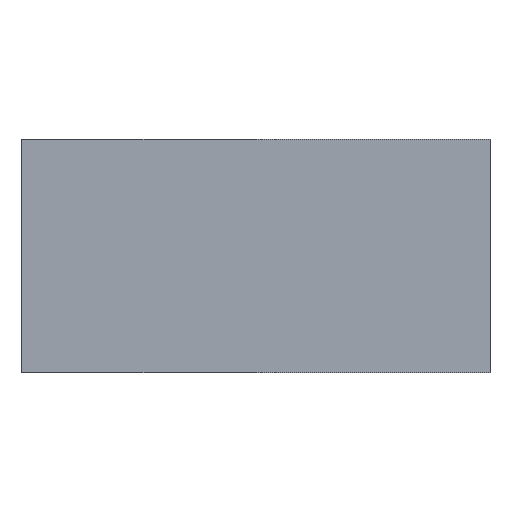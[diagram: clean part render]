
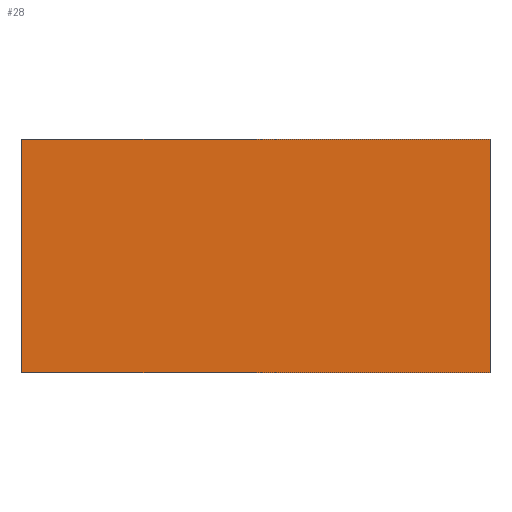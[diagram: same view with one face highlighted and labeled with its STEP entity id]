
A CAD part, front view. The second image highlights one B-rep face of the part: STEP entity #28.
In plain terms, the highlighted planar face has unit normal (0, -1, 0).
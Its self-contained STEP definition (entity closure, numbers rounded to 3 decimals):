
#28=ADVANCED_FACE('',(#34),#186,.T.);
#34=FACE_OUTER_BOUND('',#40,.T.);
#40=EDGE_LOOP('',(#58,#59,#60,#61));
#58=ORIENTED_EDGE('',*,*,#136,.F.);
#59=ORIENTED_EDGE('',*,*,#133,.F.);
#60=ORIENTED_EDGE('',*,*,#130,.F.);
#61=ORIENTED_EDGE('',*,*,#126,.F.);
#66=PCURVE('',#182,#90);
#70=PCURVE('',#183,#94);
#74=PCURVE('',#184,#98);
#78=PCURVE('',#185,#102);
#82=PCURVE('',#186,#106);
#83=PCURVE('',#186,#107);
#84=PCURVE('',#186,#108);
#85=PCURVE('',#186,#109);
#90=DEFINITIONAL_REPRESENTATION('',(#139),#313);
#94=DEFINITIONAL_REPRESENTATION('',(#147),#313);
#98=DEFINITIONAL_REPRESENTATION('',(#154),#313);
#102=DEFINITIONAL_REPRESENTATION('',(#161),#313);
#106=DEFINITIONAL_REPRESENTATION('',(#166),#313);
#107=DEFINITIONAL_REPRESENTATION('',(#167),#313);
#108=DEFINITIONAL_REPRESENTATION('',(#168),#313);
#109=DEFINITIONAL_REPRESENTATION('',(#169),#313);
#114=SURFACE_CURVE('',#138,(#66,#85),.PCURVE_S1.);
#118=SURFACE_CURVE('',#146,(#70,#84),.PCURVE_S1.);
#121=SURFACE_CURVE('',#153,(#74,#83),.PCURVE_S1.);
#124=SURFACE_CURVE('',#160,(#78,#82),.PCURVE_S1.);
#126=EDGE_CURVE('',#174,#175,#114,.T.);
#130=EDGE_CURVE('',#175,#178,#118,.T.);
#133=EDGE_CURVE('',#178,#180,#121,.T.);
#136=EDGE_CURVE('',#180,#174,#124,.T.);
#138=B_SPLINE_CURVE_WITH_KNOTS('',1,(#240,#241),.UNSPECIFIED.,.F.,.F.,(2,
2),(-200.,-150.),.UNSPECIFIED.);
#139=B_SPLINE_CURVE_WITH_KNOTS('',1,(#242,#243),.UNSPECIFIED.,.F.,.F.,(2,
2),(-200.,-150.),.UNSPECIFIED.);
#146=B_SPLINE_CURVE_WITH_KNOTS('',1,(#256,#257),.UNSPECIFIED.,.F.,.F.,(2,
2),(-150.,-100.),.UNSPECIFIED.);
#147=B_SPLINE_CURVE_WITH_KNOTS('',1,(#258,#259),.UNSPECIFIED.,.F.,.F.,(2,
2),(-150.,-100.),.UNSPECIFIED.);
#153=B_SPLINE_CURVE_WITH_KNOTS('',1,(#270,#271),.UNSPECIFIED.,.F.,.F.,(2,
2),(-100.,-50.),.UNSPECIFIED.);
#154=B_SPLINE_CURVE_WITH_KNOTS('',1,(#272,#273),.UNSPECIFIED.,.F.,.F.,(2,
2),(-100.,-50.),.UNSPECIFIED.);
#160=B_SPLINE_CURVE_WITH_KNOTS('',1,(#284,#285),.UNSPECIFIED.,.F.,.F.,(2,
2),(-50.,0.),.UNSPECIFIED.);
#161=B_SPLINE_CURVE_WITH_KNOTS('',1,(#286,#287),.UNSPECIFIED.,.F.,.F.,(2,
2),(-50.,0.),.UNSPECIFIED.);
#166=B_SPLINE_CURVE_WITH_KNOTS('',1,(#296,#297),.UNSPECIFIED.,.F.,.F.,(2,
2),(-50.,0.),.UNSPECIFIED.);
#167=B_SPLINE_CURVE_WITH_KNOTS('',1,(#298,#299),.UNSPECIFIED.,.F.,.F.,(2,
2),(-100.,-50.),.UNSPECIFIED.);
#168=B_SPLINE_CURVE_WITH_KNOTS('',1,(#300,#301),.UNSPECIFIED.,.F.,.F.,(2,
2),(-150.,-100.),.UNSPECIFIED.);
#169=B_SPLINE_CURVE_WITH_KNOTS('',1,(#302,#303),.UNSPECIFIED.,.F.,.F.,(2,
2),(-200.,-150.),.UNSPECIFIED.);
#174=VERTEX_POINT('',#232);
#175=VERTEX_POINT('',#233);
#178=VERTEX_POINT('',#236);
#180=VERTEX_POINT('',#238);
#182=PLANE('',#208);
#183=PLANE('',#209);
#184=PLANE('',#210);
#185=PLANE('',#211);
#186=PLANE('',#212);
#208=AXIS2_PLACEMENT_3D('',#226,#217,$);
#209=AXIS2_PLACEMENT_3D('',#227,#218,$);
#210=AXIS2_PLACEMENT_3D('',#228,#219,$);
#211=AXIS2_PLACEMENT_3D('',#229,#220,$);
#212=AXIS2_PLACEMENT_3D('',#230,#221,$);
#217=DIRECTION('',(-1.,0.,0.));
#218=DIRECTION('',(0.,0.,1.));
#219=DIRECTION('',(1.,0.,0.));
#220=DIRECTION('',(0.,0.,-1.));
#221=DIRECTION('',(0.,-1.,0.));
#226=CARTESIAN_POINT('',(-20.,-545.,-180.));
#227=CARTESIAN_POINT('',(-20.,-545.,-160.));
#228=CARTESIAN_POINT('',(20.,-545.,-160.));
#229=CARTESIAN_POINT('',(20.,-545.,-180.));
#230=CARTESIAN_POINT('',(20.,-545.,-180.));
#232=CARTESIAN_POINT('',(-20.,-545.,-180.));
#233=CARTESIAN_POINT('',(-20.,-545.,-160.));
#236=CARTESIAN_POINT('',(20.,-545.,-160.));
#238=CARTESIAN_POINT('',(20.,-545.,-180.));
#240=CARTESIAN_POINT('',(-20.,-545.,-180.));
#241=CARTESIAN_POINT('',(-20.,-545.,-160.));
#242=CARTESIAN_POINT('',(-200.,0.));
#243=CARTESIAN_POINT('',(-150.,0.));
#256=CARTESIAN_POINT('',(-20.,-545.,-160.));
#257=CARTESIAN_POINT('',(20.,-545.,-160.));
#258=CARTESIAN_POINT('',(-150.,0.));
#259=CARTESIAN_POINT('',(-100.,0.));
#270=CARTESIAN_POINT('',(20.,-545.,-160.));
#271=CARTESIAN_POINT('',(20.,-545.,-180.));
#272=CARTESIAN_POINT('',(-100.,0.));
#273=CARTESIAN_POINT('',(-50.,0.));
#284=CARTESIAN_POINT('',(20.,-545.,-180.));
#285=CARTESIAN_POINT('',(-20.,-545.,-180.));
#286=CARTESIAN_POINT('',(-50.,0.));
#287=CARTESIAN_POINT('',(0.,0.));
#296=CARTESIAN_POINT('',(0.,-40.));
#297=CARTESIAN_POINT('',(0.,0.));
#298=CARTESIAN_POINT('',(40.,-40.));
#299=CARTESIAN_POINT('',(0.,-40.));
#300=CARTESIAN_POINT('',(40.,0.));
#301=CARTESIAN_POINT('',(40.,-40.));
#302=CARTESIAN_POINT('',(0.,0.));
#303=CARTESIAN_POINT('',(40.,0.));
#313=(
GEOMETRIC_REPRESENTATION_CONTEXT(2)
PARAMETRIC_REPRESENTATION_CONTEXT()
REPRESENTATION_CONTEXT('pspace','')
);
